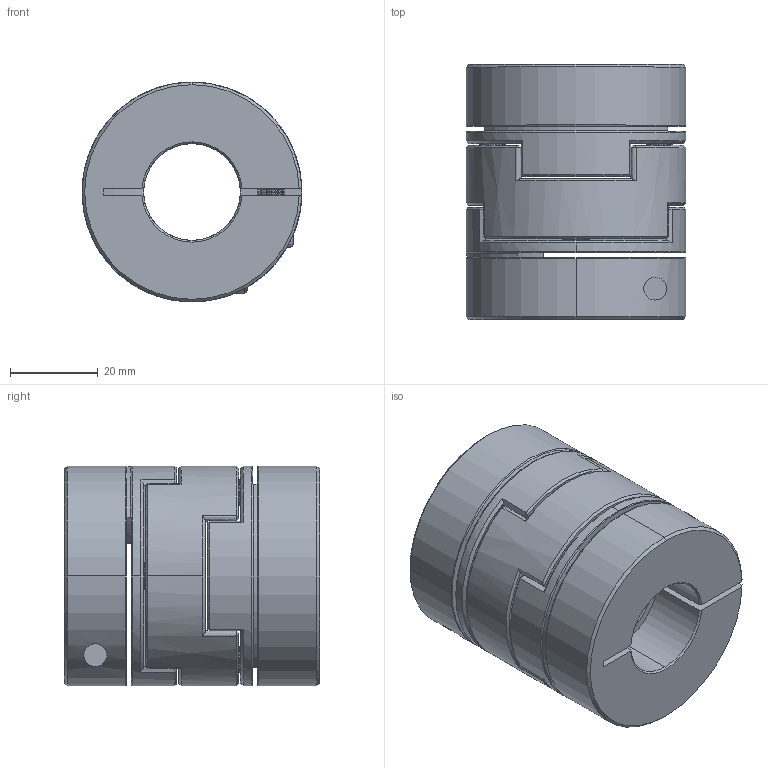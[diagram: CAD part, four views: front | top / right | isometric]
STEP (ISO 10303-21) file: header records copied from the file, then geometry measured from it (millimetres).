
FILE_DESCRIPTION (( 'STEP AP203' ), '1' );
FILE_NAME ('LZ-B-D50L58-22-22.STEP', '2021-10-29T08:17:04', ( '' ), ( '' ), 'SwSTEP 2.0', 'SolidWorks 2018', '' );
FILE_SCHEMA (( 'CONFIG_CONTROL_DESIGN' ));
Length unit declared in the file: millimetre
Products named in the file (1): LZ-B-D50L58-22-22
Bounding box: 50 x 58 x 50 mm (x, y, z)
Volume: 84572.3 mm3; surface area: 29483.5 mm2
Topology: 1 solids, 27 shells, 560 faces, 1364 edges, 810 vertices
Faces by surface type: cone 252, cylinder 160, plane 90, bspline 54, torus 4
Entity records: 17422 total; most frequent: CARTESIAN_POINT 4342, DIRECTION 2782, ORIENTED_EDGE 2720, EDGE_CURVE 1360, AXIS2_PLACEMENT_3D 1123, VERTEX_POINT 810, CIRCLE 616, EDGE_LOOP 594
